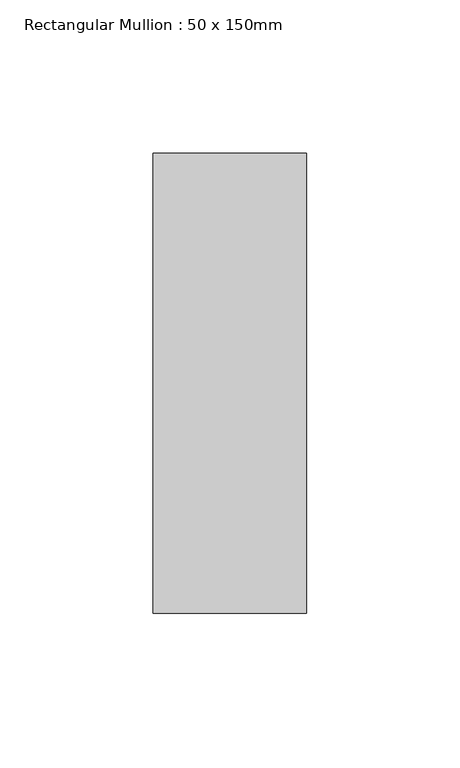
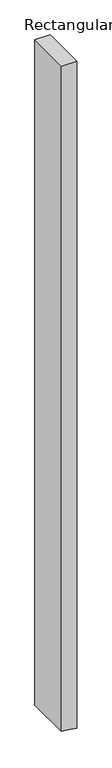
"""IFC4 building model written with IfcOpenShell, lengths in millimetres: member geometry, Rectangular Mullion : 50 x 150mm."""

from ifc_helpers import new_model, si_unit, frame, origin, place, context, project, spatial, polyline, outline, extrude, source, transform, mapped, element, save


def rectangular_mullion_50_x_150mm_860a0c2e(model_context):
    return source(origin(), model_context, "Body", "SweptSolid", [
        extrude(outline(polyline([(0.0, 25.0), (0.0, -25.0), (-2301.6268158, -25.0), (-2305.1069751, 5.6423937), (-2307.3054832, 25.0), (0.0, 25.0)])), frame((0.0, -75.0, 0.0), z_axis=(0.0, 1.0, 0.0), x_axis=(0.0, 0.0, 1.0)), (0.0, 0.0, 1.0), 150.0),
    ])


if __name__ == "__main__":
    model = new_model("IFC4")
    model_context = context("Model", 3, world=origin())
    ifc_project = project(units=[si_unit("LENGTHUNIT", "METRE", prefix="MILLI")], contexts=[model_context])
    site = spatial("IfcSite", under=ifc_project)
    building = spatial("IfcBuilding", under=site)
    placement = place(None, origin())
    rectangular_mullion_50_x_150mm_shape = rectangular_mullion_50_x_150mm_860a0c2e(model_context)
    element("IfcMember", 1, ObjectType="Rectangular Mullion : 50 x 150mm", at=placement, inside=building, context=model_context, shape_type="MappedRepresentation", body=[
        mapped(rectangular_mullion_50_x_150mm_shape, transform((0.0, 0.0, 0.0), x_axis=(1.0, 0.0, 0.0), y_axis=(0.0, 1.0, 0.0), z_axis=(0.0, 0.0, 1.0))),
    ])
    save(model, "model.ifc")
